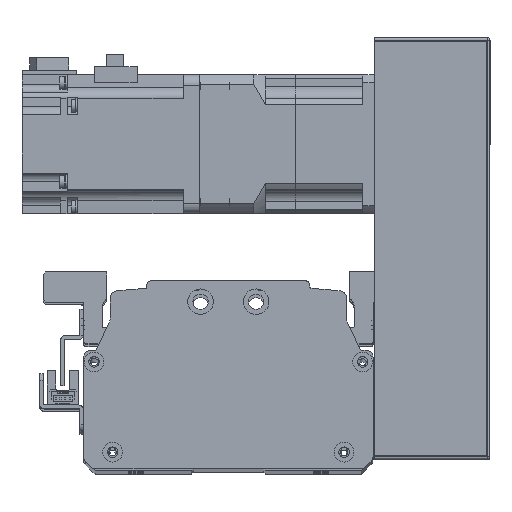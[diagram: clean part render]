
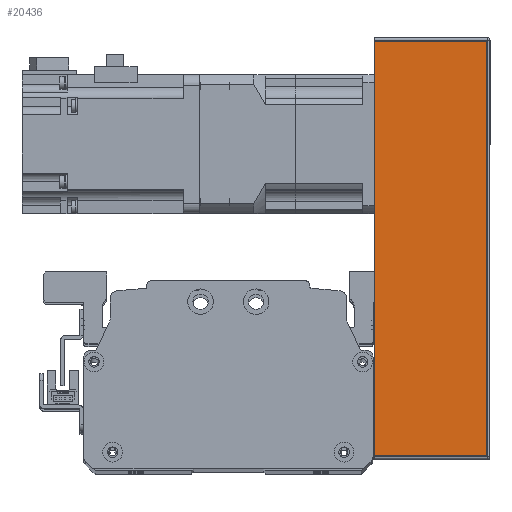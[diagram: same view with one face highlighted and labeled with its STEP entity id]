
A CAD part, top view. The second image highlights one B-rep face of the part: STEP entity #20436.
In plain terms, the highlighted planar face has unit normal (0, 0, 1) as drawn and (0, -1, 0) by its records, which use the part's own axes.
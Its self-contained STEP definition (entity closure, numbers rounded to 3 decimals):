
#563=PLANE('',#22415);
#1778=LINE('',#33300,#3402);
#1792=LINE('',#33352,#3416);
#1794=LINE('',#33360,#3418);
#1795=LINE('',#33362,#3419);
#3402=VECTOR('',#27049,10.);
#3416=VECTOR('',#27109,10.);
#3418=VECTOR('',#27123,10.);
#3419=VECTOR('',#27126,10.);
#5770=FACE_OUTER_BOUND('',#7210,.T.);
#7210=EDGE_LOOP('',(#16998,#16999,#17000,#17001));
#10062=VERTEX_POINT('',#33297);
#10063=VERTEX_POINT('',#33299);
#10077=VERTEX_POINT('',#33347);
#10078=VERTEX_POINT('',#33350);
#12498=EDGE_CURVE('',#10063,#10062,#1778,.T.);
#12526=EDGE_CURVE('',#10077,#10078,#1792,.T.);
#12530=EDGE_CURVE('',#10078,#10063,#1794,.T.);
#12531=EDGE_CURVE('',#10062,#10077,#1795,.T.);
#16998=ORIENTED_EDGE('',*,*,#12526,.T.);
#16999=ORIENTED_EDGE('',*,*,#12530,.T.);
#17000=ORIENTED_EDGE('',*,*,#12498,.T.);
#17001=ORIENTED_EDGE('',*,*,#12531,.T.);
#20436=ADVANCED_FACE('',(#5770),#563,.F.);
#22415=AXIS2_PLACEMENT_3D('',#33361,#27124,#27125);
#27049=DIRECTION('',(1.,0.,0.));
#27109=DIRECTION('',(-1.,0.,0.));
#27123=DIRECTION('',(0.,0.,-1.));
#27124=DIRECTION('center_axis',(0.,1.,0.));
#27125=DIRECTION('ref_axis',(1.,0.,0.));
#27126=DIRECTION('',(0.,0.,1.));
#33297=CARTESIAN_POINT('',(90.,-38.,-25.));
#33299=CARTESIAN_POINT('',(-90.,-38.,-25.));
#33300=CARTESIAN_POINT('',(91.,-38.,-25.));
#33347=CARTESIAN_POINT('',(90.,-38.,24.));
#33350=CARTESIAN_POINT('',(-90.,-38.,24.));
#33352=CARTESIAN_POINT('',(-45.5,-38.,24.));
#33360=CARTESIAN_POINT('',(-90.,-38.,0.));
#33361=CARTESIAN_POINT('Origin',(-91.,-38.,0.));
#33362=CARTESIAN_POINT('',(90.,-38.,0.));
